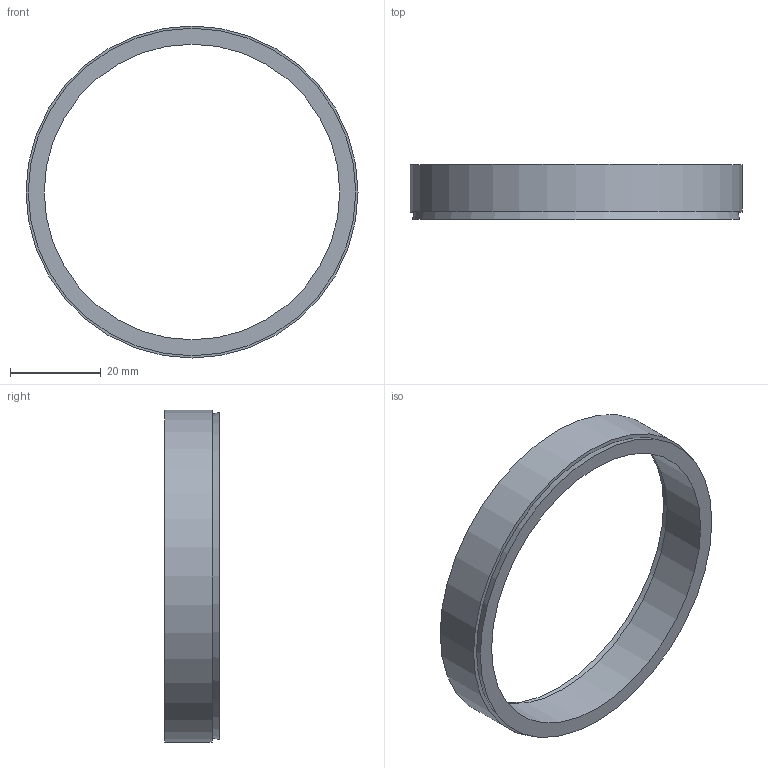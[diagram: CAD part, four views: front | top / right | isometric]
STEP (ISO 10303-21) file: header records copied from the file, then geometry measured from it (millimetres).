
FILE_DESCRIPTION( ( 'Unknown' ), '1' );
FILE_NAME( 'C:/Dokumente und Einstellungen/Sven/Desktop/homepage/cad - homepage/KBS50/KBS 50 - 65 x 73.stp', 'Unknown', ( 'Unknown' ), ( 'Unknown' ), 'XStep 1.0', 'Unknown', ' ' );
FILE_SCHEMA( ( 'automotive_design' ) );
Length unit declared in the file: millimetre
Products named in the file (1): 1
Bounding box: 73 x 12 x 73 mm (x, y, z)
Volume: 9919.4 mm3; surface area: 7131.4 mm2
Topology: 1 solids, 1 shells, 8 faces, 12 edges, 8 vertices
Faces by surface type: plane 4, cylinder 2, cone 2
Full cylindrical faces by diameter (mm): 65 x1, 73 x1
Entity records: 248 total; most frequent: DIRECTION 34, CARTESIAN_POINT 25, AXIS2_PLACEMENT_3D 17, EDGE_LOOP 16, ORIENTED_EDGE 16, FACE_OUTER_BOUND 10, STYLED_ITEM 8, PRESENTATION_STYLE_ASSIGNMENT 8
